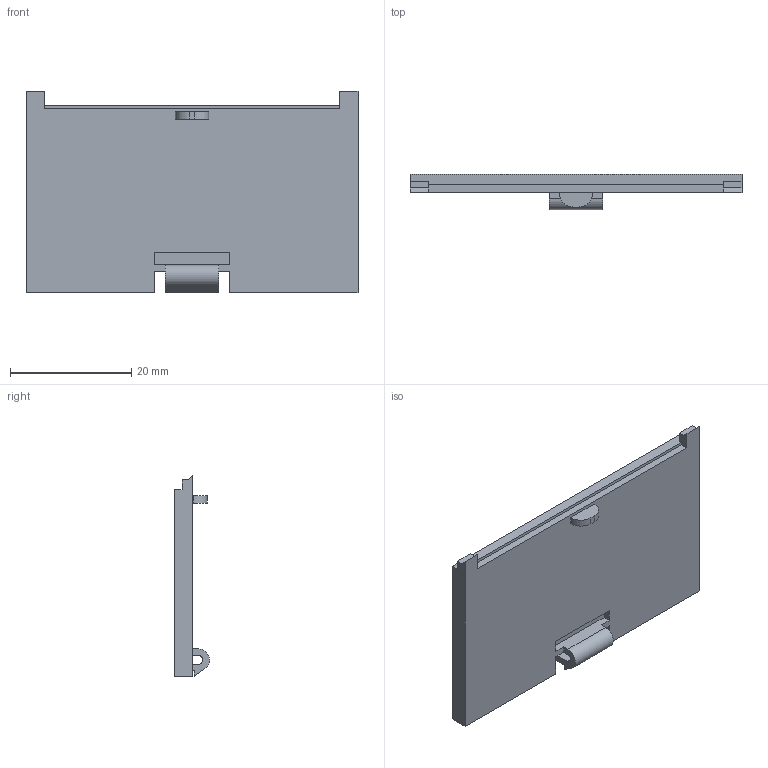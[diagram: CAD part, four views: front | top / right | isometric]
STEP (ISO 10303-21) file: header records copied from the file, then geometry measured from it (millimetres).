
FILE_DESCRIPTION (( 'STEP AP214' ), '1' );
FILE_NAME ('Tapeta.STEP', '2016-12-28T20:59:13', ( 'aaa' ), ( '' ), 'SwSTEP 2.0', 'SolidWorks 2013', '' );
FILE_SCHEMA (( 'AUTOMOTIVE_DESIGN' ));
Length unit declared in the file: millimetre
Products named in the file (1): Tapeta
Bounding box: 54.84 x 5.8 x 33.3 mm (x, y, z)
Volume: 5014.5 mm3; surface area: 4125.9 mm2
Topology: 1 solids, 1 shells, 41 faces, 114 edges, 76 vertices
Faces by surface type: plane 37, cylinder 4
Entity records: 1330 total; most frequent: CARTESIAN_POINT 232, ORIENTED_EDGE 228, DIRECTION 206, EDGE_CURVE 114, VECTOR 106, LINE 106, VERTEX_POINT 76, AXIS2_PLACEMENT_3D 50
